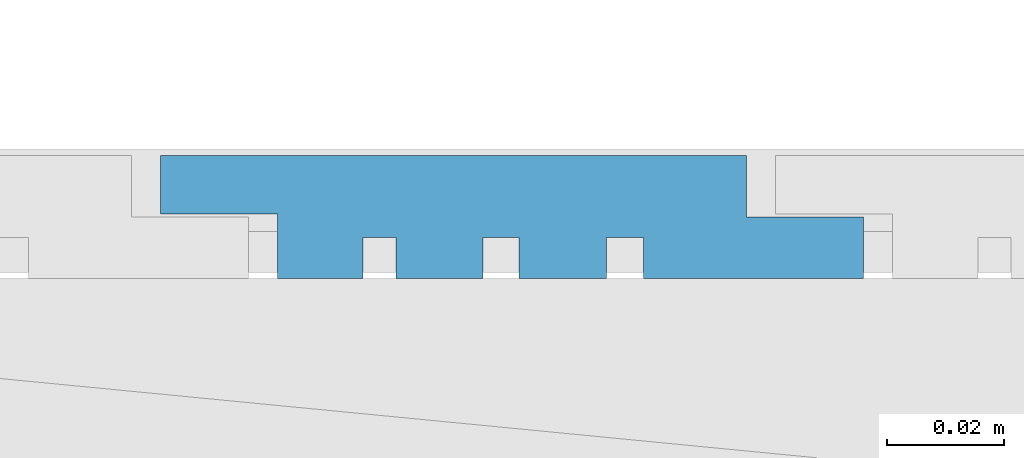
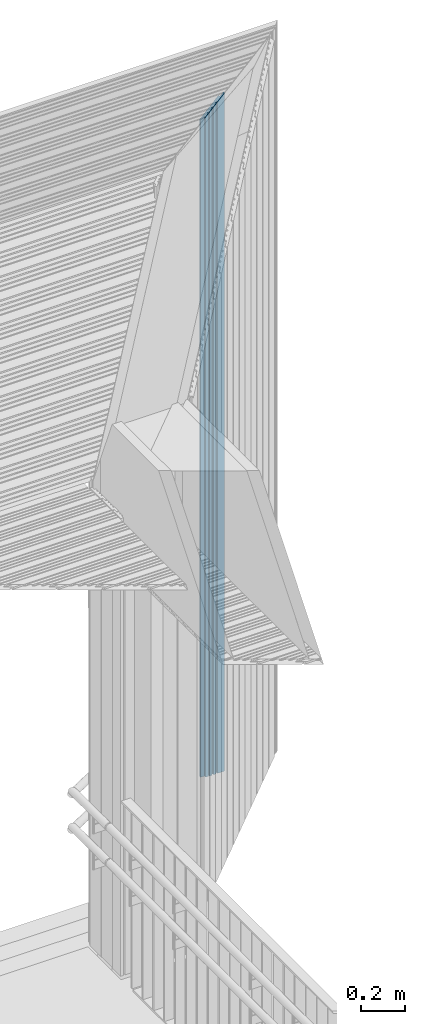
# One storey, part 146 of 418: 1 building element part, 1 element without a shape of its own.
"""IFC2X3 building model written with IfcOpenShell, lengths in millimetres."""

from ifc_helpers import new_model, entity, si_unit, converted_unit, derived_unit, money_unit, direction, frame, origin_with_axes, place, context, subcontext, project, spatial, polyline, outline, extrude, boolean, faceted_brep, material, type_object, element, aggregate, save


model = new_model("IFC2X3")

# Units and contexts
model_context = context("Model", 3, precision=0.01, world=origin_with_axes(), true_north=direction((0.0, 1.0)))
body_context = subcontext(model_context, "Body", "Model", "MODEL_VIEW")
ifc_project = project(units=[si_unit("LENGTHUNIT", "METRE", prefix="MILLI"), si_unit("AREAUNIT", "SQUARE_METRE"), si_unit("VOLUMEUNIT", "CUBIC_METRE"), converted_unit("PLANEANGLEUNIT", "DEGREE", entity("IfcPlaneAngleMeasure", 0.0174532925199), si_unit("PLANEANGLEUNIT", "RADIAN"), dimensions=[0, 0, 0, 0, 0, 0, 0]), si_unit("SOLIDANGLEUNIT", "STERADIAN"), money_unit("EUR"), converted_unit("TIMEUNIT", "Year", entity("IfcTimeMeasure", 31556926.0), si_unit("TIMEUNIT", "SECOND"), dimensions=[0, 0, 1, 0, 0, 0, 0]), si_unit("MASSUNIT", "GRAM", prefix="KILO"), si_unit("THERMODYNAMICTEMPERATUREUNIT", "DEGREE_CELSIUS"), si_unit("LUMINOUSINTENSITYUNIT", "LUMEN"), si_unit("ENERGYUNIT", "JOULE", prefix="MEGA"), derived_unit("THERMALCONDUCTANCEUNIT", [(si_unit("POWERUNIT", "WATT"), 1), (si_unit("LENGTHUNIT", "METRE"), -1), (si_unit("THERMODYNAMICTEMPERATUREUNIT", "KELVIN"), -1)]), derived_unit("SPECIFICHEATCAPACITYUNIT", [(si_unit("ENERGYUNIT", "JOULE"), 1), (si_unit("MASSUNIT", "GRAM", prefix="KILO"), -1), (si_unit("THERMODYNAMICTEMPERATUREUNIT", "KELVIN"), -1)]), derived_unit("MASSDENSITYUNIT", [(si_unit("MASSUNIT", "GRAM", prefix="KILO"), 1), (si_unit("VOLUMEUNIT", "CUBIC_METRE"), -1)])], contexts=[model_context])

# Site, building, storey
site_placement = place(None, origin_with_axes())
site = spatial("IfcSite", under=ifc_project, at=site_placement, Name="Paldiski mnt 245/1, Tallinn, Harjumaa", CompositionType="COMPLEX")
building_placement = place(site_placement, origin_with_axes())
building = spatial("IfcBuilding", under=site, at=building_placement, Name="RKAS Hoone üldnimetus (kasutust iseloomustav) -> IFC Project Manager -> SOLIBRI", CompositionType="ELEMENT")
storey_placement = place(building_placement, origin_with_axes())
storey = spatial("IfcBuildingStorey", under=building, at=storey_placement, Name="Esimene korrus", CompositionType="ELEMENT", Elevation=0.0)

# Proxy, building element part
building_element_proxy_type = type_object("IfcBuildingElementProxyType", Name="Laudis esiprofiil_01 21 x 622", PredefinedType="NOTDEFINED")
proxy_placement = place(storey_placement, frame((-46724.4601459, 39788.252735, 0.0), z_axis=(0.0, 0.0, 1.0), x_axis=(0.0, -1.0, 0.0)))
proxy = element("IfcBuildingElementProxy", 1, at=proxy_placement, inside=storey, type_object=building_element_proxy_type, Name="Varikatus")
ifc_material = material(Name="Laudis 5072 Honka 45 horisontaalne raastas")
building_element_part_placement = place(proxy_placement, origin_with_axes())
building_element_part = element("IfcBuildingElementPart", 2, at=building_element_part_placement, material=ifc_material, Name="Laudis 5072 Honka 45 horisontaalne raastas", context=body_context, shape_type="CSG", body=[
    boolean("DIFFERENCE", boolean("DIFFERENCE", boolean("DIFFERENCE", boolean("DIFFERENCE", boolean("DIFFERENCE", boolean("DIFFERENCE", extrude(outline(polyline([(3.20348192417e-08, -310.971430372), (-10.5000010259, -310.971430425), (-10.5000005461, -290.971429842), (-20.9999998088, -290.971430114), (-21.0000010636, -328.497524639), (-14.0000005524, -328.497525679), (-14.0000003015, -334.860022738), (-20.99999981, -334.860022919), (-20.9999998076, -349.79914009), (-14.0000002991, -349.799139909), (-14.0000007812, -355.926080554), (-21.0000002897, -355.926080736), (-21.0000013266, -370.754573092), (-14.0000008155, -370.754574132), (-14.0000015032, -376.395242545), (-21.0000010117, -376.395242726), (-21.0000007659, -390.971429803), (-10.000001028, -390.971430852), (-10.0000002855, -410.971430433), (-7.63172636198e-07, -410.971430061), (3.20348192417e-08, -310.971430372)])), frame((0.0, 0.0, 0.0), z_axis=(0.0, 0.0, -1.0), x_axis=(-1.0, 0.0, 0.0)), (0.0, 0.0, -1.0), 4086.15997799), faceted_brep([(20.9999998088, -395.971430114, 3689.02857107), (10.5000005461, -395.971429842, 3689.02857134), (10.5000005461, -395.971429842, 4086.15997799), (20.9999998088, -395.971430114, 4086.15997799), (10.5000010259, -415.971430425, 3669.02857076), (21.0000010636, -433.497524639, 3651.50247655), (14.0000005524, -433.497525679, 3651.50247551), (14.0000003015, -439.860022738, 3645.13997845), (20.99999981, -439.860022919, 3645.13997827), (20.9999998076, -454.79914009, 3630.20086109), (14.0000002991, -454.799139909, 3630.20086128), (14.0000007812, -460.926080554, 3624.07392063), (21.0000002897, -460.926080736, 3624.07392045), (21.0000013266, -475.754573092, 3609.24542809), (14.0000008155, -475.754574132, 3609.24542705), (14.0000015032, -481.395242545, 3603.60475864), (21.0000010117, -481.395242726, 3603.60475846), (21.0000007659, -495.971429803, 3589.02857138), (10.000001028, -495.971430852, 3589.02857033), (10.0000002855, -515.971430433, 3569.02857075), (7.6316553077e-07, -515.971430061, 3569.02857112), (-3.20383719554e-08, -415.971430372, 3669.02857081), (10.5000010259, -415.971430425, 4086.15997799), (-3.20383719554e-08, -415.971430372, 4086.15997799), (7.6316553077e-07, -515.971430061, 4086.15997799), (10.0000002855, -515.971430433, 4086.15997799), (10.000001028, -495.971430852, 4086.15997799), (21.0000007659, -495.971429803, 4086.15997799), (21.0000010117, -481.395242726, 4086.15997799), (14.0000015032, -481.395242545, 4086.15997799), (14.0000008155, -475.754574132, 4086.15997799), (21.0000013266, -475.754573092, 4086.15997799), (21.0000002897, -460.926080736, 4086.15997799), (14.0000007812, -460.926080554, 4086.15997799), (14.0000002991, -454.799139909, 4086.15997799), (20.9999998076, -454.79914009, 4086.15997799), (20.99999981, -439.860022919, 4086.15997799), (14.0000003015, -439.860022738, 4086.15997799), (14.0000005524, -433.497525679, 4086.15997799), (21.0000010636, -433.497524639, 4086.15997799)], [[[0, 1, 2, 3]], [[4, 1, 0, 5, 6, 7, 8, 9, 10, 11, 12, 13, 14, 15, 16, 17, 18, 19, 20, 21]], [[1, 4, 22, 2]], [[22, 23, 24, 25, 26, 27, 28, 29, 30, 31, 32, 33, 34, 35, 36, 37, 38, 39, 3, 2]], [[5, 0, 3, 39]], [[6, 5, 39, 38]], [[7, 6, 38, 37]], [[8, 7, 37, 36]], [[9, 8, 36, 35]], [[10, 9, 35, 34]], [[11, 10, 34, 33]], [[12, 11, 33, 32]], [[13, 12, 32, 31]], [[14, 13, 31, 30]], [[15, 14, 30, 29]], [[16, 15, 29, 28]], [[17, 16, 28, 27]], [[18, 17, 27, 26]], [[19, 18, 26, 25]], [[20, 19, 25, 24]], [[21, 20, 24, 23]], [[4, 21, 23, 22]]])), faceted_brep([(20.9999998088, -500.971430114, 3584.02857107), (10.5000005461, -500.971429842, 3584.02857134), (10.5000005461, -500.971429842, 4086.15997799), (20.9999998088, -500.971430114, 4086.15997799), (10.5000010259, -520.971430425, 3564.02857076), (21.0000010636, -538.497524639, 3546.50247655), (14.0000005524, -538.497525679, 3546.50247551), (14.0000003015, -544.860022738, 3540.13997845), (20.99999981, -544.860022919, 3540.13997827), (20.9999998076, -559.79914009, 3525.20086109), (14.0000002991, -559.799139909, 3525.20086128), (14.0000007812, -565.926080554, 3519.07392063), (21.0000002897, -565.926080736, 3519.07392045), (21.0000013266, -580.754573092, 3504.24542809), (14.0000008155, -580.754574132, 3504.24542705), (14.0000015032, -586.395242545, 3498.60475864), (21.0000010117, -586.395242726, 3498.60475846), (21.0000007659, -600.971429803, 3484.02857138), (10.000001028, -600.971430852, 3484.02857033), (10.0000002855, -620.971430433, 3464.02857075), (7.63172636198e-07, -620.971430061, 3464.02857112), (-3.20383719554e-08, -520.971430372, 3564.02857081), (10.5000010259, -520.971430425, 4086.15997799), (-3.20383719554e-08, -520.971430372, 4086.15997799), (7.63172636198e-07, -620.971430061, 4086.15997799), (10.0000002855, -620.971430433, 4086.15997799), (10.000001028, -600.971430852, 4086.15997799), (21.0000007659, -600.971429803, 4086.15997799), (21.0000010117, -586.395242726, 4086.15997799), (14.0000015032, -586.395242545, 4086.15997799), (14.0000008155, -580.754574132, 4086.15997799), (21.0000013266, -580.754573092, 4086.15997799), (21.0000002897, -565.926080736, 4086.15997799), (14.0000007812, -565.926080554, 4086.15997799), (14.0000002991, -559.799139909, 4086.15997799), (20.9999998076, -559.79914009, 4086.15997799), (20.99999981, -544.860022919, 4086.15997799), (14.0000003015, -544.860022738, 4086.15997799), (14.0000005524, -538.497525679, 4086.15997799), (21.0000010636, -538.497524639, 4086.15997799)], [[[0, 1, 2, 3]], [[4, 1, 0, 5, 6, 7, 8, 9, 10, 11, 12, 13, 14, 15, 16, 17, 18, 19, 20, 21]], [[1, 4, 22, 2]], [[22, 23, 24, 25, 26, 27, 28, 29, 30, 31, 32, 33, 34, 35, 36, 37, 38, 39, 3, 2]], [[5, 0, 3, 39]], [[6, 5, 39, 38]], [[7, 6, 38, 37]], [[8, 7, 37, 36]], [[9, 8, 36, 35]], [[10, 9, 35, 34]], [[11, 10, 34, 33]], [[12, 11, 33, 32]], [[13, 12, 32, 31]], [[14, 13, 31, 30]], [[15, 14, 30, 29]], [[16, 15, 29, 28]], [[17, 16, 28, 27]], [[18, 17, 27, 26]], [[19, 18, 26, 25]], [[20, 19, 25, 24]], [[21, 20, 24, 23]], [[4, 21, 23, 22]]])), faceted_brep([(20.9999998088, -185.971430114, 3899.02857107), (10.5000005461, -185.971429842, 3899.02857134), (10.5000005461, -185.971429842, 4086.15997799), (20.9999998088, -185.971430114, 4086.15997799), (10.5000010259, -205.971430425, 3879.02857076), (21.0000010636, -223.497524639, 3861.50247655), (14.0000005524, -223.497525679, 3861.50247551), (14.0000003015, -229.860022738, 3855.13997845), (20.99999981, -229.860022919, 3855.13997827), (20.9999998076, -244.79914009, 3840.20086109), (14.0000002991, -244.799139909, 3840.20086128), (14.0000007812, -250.926080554, 3834.07392063), (21.0000002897, -250.926080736, 3834.07392045), (21.0000013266, -265.754573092, 3819.24542809), (14.0000008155, -265.754574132, 3819.24542705), (14.0000015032, -271.395242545, 3813.60475864), (21.0000010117, -271.395242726, 3813.60475846), (21.0000007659, -285.971429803, 3799.02857138), (10.000001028, -285.971430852, 3799.02857033), (10.0000002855, -305.971430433, 3779.02857075), (7.63172636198e-07, -305.971430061, 3779.02857112), (-3.20383719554e-08, -205.971430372, 3879.02857081), (10.5000010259, -205.971430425, 4086.15997799), (-3.20383719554e-08, -205.971430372, 4086.15997799), (7.63172636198e-07, -305.971430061, 4086.15997799), (10.0000002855, -305.971430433, 4086.15997799), (10.000001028, -285.971430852, 4086.15997799), (21.0000007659, -285.971429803, 4086.15997799), (21.0000010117, -271.395242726, 4086.15997799), (14.0000015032, -271.395242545, 4086.15997799), (14.0000008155, -265.754574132, 4086.15997799), (21.0000013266, -265.754573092, 4086.15997799), (21.0000002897, -250.926080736, 4086.15997799), (14.0000007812, -250.926080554, 4086.15997799), (14.0000002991, -244.799139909, 4086.15997799), (20.9999998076, -244.79914009, 4086.15997799), (20.99999981, -229.860022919, 4086.15997799), (14.0000003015, -229.860022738, 4086.15997799), (14.0000005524, -223.497525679, 4086.15997799), (21.0000010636, -223.497524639, 4086.15997799)], [[[0, 1, 2, 3]], [[4, 1, 0, 5, 6, 7, 8, 9, 10, 11, 12, 13, 14, 15, 16, 17, 18, 19, 20, 21]], [[1, 4, 22, 2]], [[22, 23, 24, 25, 26, 27, 28, 29, 30, 31, 32, 33, 34, 35, 36, 37, 38, 39, 3, 2]], [[5, 0, 3, 39]], [[6, 5, 39, 38]], [[7, 6, 38, 37]], [[8, 7, 37, 36]], [[9, 8, 36, 35]], [[10, 9, 35, 34]], [[11, 10, 34, 33]], [[12, 11, 33, 32]], [[13, 12, 32, 31]], [[14, 13, 31, 30]], [[15, 14, 30, 29]], [[16, 15, 29, 28]], [[17, 16, 28, 27]], [[18, 17, 27, 26]], [[19, 18, 26, 25]], [[20, 19, 25, 24]], [[21, 20, 24, 23]], [[4, 21, 23, 22]]])), faceted_brep([(20.9999998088, -290.971430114, 3794.02857107), (10.5000005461, -290.971429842, 3794.02857134), (10.5000005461, -290.971429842, 4086.15997799), (20.9999998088, -290.971430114, 4086.15997799), (10.5000010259, -310.971430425, 3774.02857076), (21.0000010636, -328.497524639, 3756.50247655), (14.0000005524, -328.497525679, 3756.50247551), (14.0000003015, -334.860022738, 3750.13997845), (20.99999981, -334.860022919, 3750.13997827), (20.9999998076, -349.79914009, 3735.20086109), (14.0000002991, -349.799139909, 3735.20086128), (14.0000007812, -355.926080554, 3729.07392063), (21.0000002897, -355.926080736, 3729.07392045), (21.0000013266, -370.754573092, 3714.24542809), (14.0000008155, -370.754574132, 3714.24542705), (14.0000015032, -376.395242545, 3708.60475864), (21.0000010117, -376.395242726, 3708.60475846), (21.0000007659, -390.971429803, 3694.02857138), (10.000001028, -390.971430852, 3694.02857033), (10.0000002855, -410.971430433, 3674.02857075), (7.6316553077e-07, -410.971430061, 3674.02857112), (-3.20383719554e-08, -310.971430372, 3774.02857081), (10.5000010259, -310.971430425, 4086.15997799), (-3.20383719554e-08, -310.971430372, 4086.15997799), (7.6316553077e-07, -410.971430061, 4086.15997799), (10.0000002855, -410.971430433, 4086.15997799), (10.000001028, -390.971430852, 4086.15997799), (21.0000007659, -390.971429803, 4086.15997799), (21.0000010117, -376.395242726, 4086.15997799), (14.0000015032, -376.395242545, 4086.15997799), (14.0000008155, -370.754574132, 4086.15997799), (21.0000013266, -370.754573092, 4086.15997799), (21.0000002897, -355.926080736, 4086.15997799), (14.0000007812, -355.926080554, 4086.15997799), (14.0000002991, -349.799139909, 4086.15997799), (20.9999998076, -349.79914009, 4086.15997799), (20.99999981, -334.860022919, 4086.15997799), (14.0000003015, -334.860022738, 4086.15997799), (14.0000005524, -328.497525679, 4086.15997799), (21.0000010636, -328.497524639, 4086.15997799)], [[[0, 1, 2, 3]], [[4, 1, 0, 5, 6, 7, 8, 9, 10, 11, 12, 13, 14, 15, 16, 17, 18, 19, 20, 21]], [[1, 4, 22, 2]], [[22, 23, 24, 25, 26, 27, 28, 29, 30, 31, 32, 33, 34, 35, 36, 37, 38, 39, 3, 2]], [[5, 0, 3, 39]], [[6, 5, 39, 38]], [[7, 6, 38, 37]], [[8, 7, 37, 36]], [[9, 8, 36, 35]], [[10, 9, 35, 34]], [[11, 10, 34, 33]], [[12, 11, 33, 32]], [[13, 12, 32, 31]], [[14, 13, 31, 30]], [[15, 14, 30, 29]], [[16, 15, 29, 28]], [[17, 16, 28, 27]], [[18, 17, 27, 26]], [[19, 18, 26, 25]], [[20, 19, 25, 24]], [[21, 20, 24, 23]], [[4, 21, 23, 22]]])), faceted_brep([(14.0000008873, -12.860024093, 4072.13997709), (-8.29203372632e-09, 1.13997680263, 4086.13997799), (-8.29203372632e-09, 1.13997680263, 4086.15997799), (14.0000008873, -12.860024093, 4086.15997799), (1.4387921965e-06, -95.9714304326, 3989.02857075), (14.0000008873, -19.8600231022, 4065.13997808), (20.9999998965, -19.8600231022, 4065.13997808), (20.9999998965, -34.7991407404, 4050.20086044), (14.0000008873, -34.7991393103, 4050.20086187), (14.0000008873, -40.9260801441, 4044.07392104), (20.9999998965, -40.9260801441, 4044.07392104), (21.0000013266, -55.7545733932, 4029.24542779), (14.0000008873, -55.7545748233, 4029.24542636), (14.0000008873, -61.3952431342, 4023.60475805), (21.0000013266, -61.3952431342, 4023.60475805), (21.0000013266, -75.9714304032, 4009.02857078), (10.0000014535, -75.9714304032, 4009.02857078), (10.0000000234, -95.9714304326, 3989.02857075), (1.4387921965e-06, -95.9714304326, 4086.15997799), (14.0000008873, -55.7545748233, 4086.15997799), (21.0000013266, -55.7545733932, 4086.15997799), (20.9999998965, -40.9260801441, 4086.15997799), (14.0000008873, -40.9260801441, 4086.15997799), (14.0000008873, -34.7991393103, 4086.15997799), (20.9999998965, -34.7991407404, 4086.15997799), (20.9999998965, -19.8600231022, 4086.15997799), (14.0000008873, -19.8600231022, 4086.15997799), (10.0000000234, -95.9714304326, 4086.15997799), (10.0000014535, -75.9714304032, 4086.15997799), (21.0000013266, -75.9714304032, 4086.15997799), (21.0000013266, -61.3952431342, 4086.15997799), (14.0000008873, -61.3952431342, 4086.15997799)], [[[0, 1, 2, 3]], [[4, 1, 0, 5, 6, 7, 8, 9, 10, 11, 12, 13, 14, 15, 16, 17]], [[1, 4, 18, 2]], [[19, 20, 21, 22, 23, 24, 25, 26, 3, 2, 18, 27, 28, 29, 30, 31]], [[5, 0, 3, 26]], [[6, 5, 26, 25]], [[7, 6, 25, 24]], [[8, 7, 24, 23]], [[9, 8, 23, 22]], [[10, 9, 22, 21]], [[11, 10, 21, 20]], [[12, 11, 20, 19]], [[13, 12, 19, 31]], [[14, 13, 31, 30]], [[15, 14, 30, 29]], [[16, 15, 29, 28]], [[17, 16, 28, 27]], [[4, 17, 27, 18]]])), faceted_brep([(20.9999998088, -80.9714301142, 4004.02857107), (10.5000005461, -80.9714298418, 4004.02857134), (10.5000005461, -80.9714298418, 4086.15997799), (20.9999998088, -80.9714301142, 4086.15997799), (10.5000010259, -100.971430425, 3984.02857076), (21.0000010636, -118.497524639, 3966.50247655), (14.0000005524, -118.497525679, 3966.50247551), (14.0000003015, -124.860022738, 3960.13997845), (20.99999981, -124.860022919, 3960.13997827), (20.9999998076, -139.79914009, 3945.20086109), (14.0000002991, -139.799139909, 3945.20086128), (14.0000007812, -145.926080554, 3939.07392063), (21.0000002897, -145.926080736, 3939.07392045), (21.0000013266, -160.754573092, 3924.24542809), (14.0000008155, -160.754574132, 3924.24542705), (14.0000015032, -166.395242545, 3918.60475864), (21.0000010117, -166.395242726, 3918.60475846), (21.0000007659, -180.971429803, 3904.02857138), (10.000001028, -180.971430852, 3904.02857033), (10.0000002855, -200.971430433, 3884.02857075), (7.6316553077e-07, -200.971430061, 3884.02857112), (-3.20383719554e-08, -100.971430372, 3984.02857081), (10.5000010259, -100.971430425, 4086.15997799), (-3.20383719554e-08, -100.971430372, 4086.15997799), (7.6316553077e-07, -200.971430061, 4086.15997799), (10.0000002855, -200.971430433, 4086.15997799), (10.000001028, -180.971430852, 4086.15997799), (21.0000007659, -180.971429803, 4086.15997799), (21.0000010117, -166.395242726, 4086.15997799), (14.0000015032, -166.395242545, 4086.15997799), (14.0000008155, -160.754574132, 4086.15997799), (21.0000013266, -160.754573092, 4086.15997799), (21.0000002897, -145.926080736, 4086.15997799), (14.0000007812, -145.926080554, 4086.15997799), (14.0000002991, -139.799139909, 4086.15997799), (20.9999998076, -139.79914009, 4086.15997799), (20.99999981, -124.860022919, 4086.15997799), (14.0000003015, -124.860022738, 4086.15997799), (14.0000005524, -118.497525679, 4086.15997799), (21.0000010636, -118.497524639, 4086.15997799)], [[[0, 1, 2, 3]], [[4, 1, 0, 5, 6, 7, 8, 9, 10, 11, 12, 13, 14, 15, 16, 17, 18, 19, 20, 21]], [[1, 4, 22, 2]], [[22, 23, 24, 25, 26, 27, 28, 29, 30, 31, 32, 33, 34, 35, 36, 37, 38, 39, 3, 2]], [[5, 0, 3, 39]], [[6, 5, 39, 38]], [[7, 6, 38, 37]], [[8, 7, 37, 36]], [[9, 8, 36, 35]], [[10, 9, 35, 34]], [[11, 10, 34, 33]], [[12, 11, 33, 32]], [[13, 12, 32, 31]], [[14, 13, 31, 30]], [[15, 14, 30, 29]], [[16, 15, 29, 28]], [[17, 16, 28, 27]], [[18, 17, 27, 26]], [[19, 18, 26, 25]], [[20, 19, 25, 24]], [[21, 20, 24, 23]], [[4, 21, 23, 22]]])),
])
aggregate(proxy, [building_element_part])

save(model, "model.ifc")
